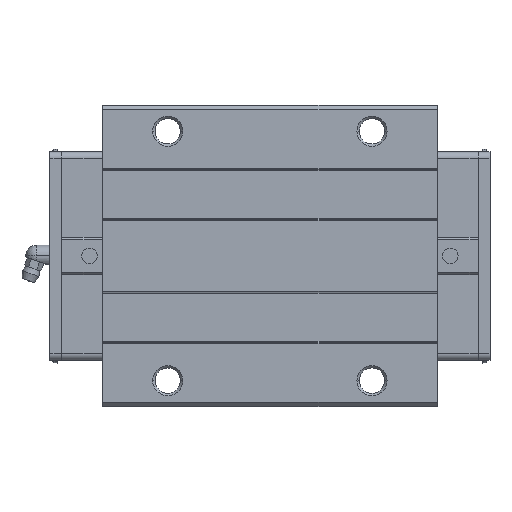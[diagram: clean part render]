
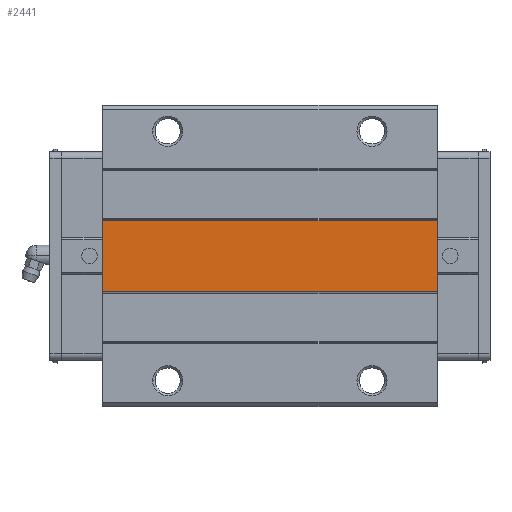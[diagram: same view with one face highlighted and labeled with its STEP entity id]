
A CAD part, top view. The second image highlights one B-rep face of the part: STEP entity #2441.
In plain terms, the highlighted planar face has unit normal (0, 0, 1).
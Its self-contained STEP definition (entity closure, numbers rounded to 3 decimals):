
#2380=CARTESIAN_POINT('POINT157',(180.3,-16.5,
   57.));
#2381=VERTEX_POINT('VERTEX157',#2380);
#2388=CARTESIAN_POINT('POINT158',(24.5,-16.5,
   57.));
#2389=VERTEX_POINT('VERTEX158',#2388);
#2390=CARTESIAN_POINT('POS238',(24.5,-16.5,
   57.));
#2391=DIRECTION('DIR340',(1.,0.,0.));
#2392=VECTOR('VEC136',#2391,1.);
#2393=LINE('STRAIGHT136',#2390,#2392);
#2394=EDGE_CURVE('EDGE231',#2389,#2381,#2393,.T.);
#2411=CARTESIAN_POINT('POINT159',(180.3,16.5,57.));
#2412=VERTEX_POINT('VERTEX159',#2411);
#2413=CARTESIAN_POINT('POS241',(180.3,0.,57.));
#2414=DIRECTION('DIR344',(0.,1.,0.));
#2415=VECTOR('VEC138',#2414,1.);
#2416=LINE('STRAIGHT138',#2413,#2415);
#2417=EDGE_CURVE('EDGE233',#2381,#2412,#2416,.T.);
#2418=ORIENTED_EDGE('COEDGE396',*,*,#2417,.T.);
#2419=CARTESIAN_POINT('POINT160',(24.5,16.5,57.));
#2420=VERTEX_POINT('VERTEX160',#2419);
#2421=CARTESIAN_POINT('POS242',(24.5,16.5,57.));
#2422=DIRECTION('DIR345',(1.,0.,0.));
#2423=VECTOR('VEC139',#2422,1.);
#2424=LINE('STRAIGHT139',#2421,#2423);
#2425=EDGE_CURVE('EDGE234',#2420,#2412,#2424,.T.);
#2426=ORIENTED_EDGE('COEDGE397',*,*,#2425,.F.);
#2427=CARTESIAN_POINT('POS243',(24.5,0.,57.));
#2428=DIRECTION('DIR346',(0.,1.,0.));
#2429=VECTOR('VEC140',#2428,1.);
#2430=LINE('STRAIGHT140',#2427,#2429);
#2431=EDGE_CURVE('EDGE235',#2389,#2420,#2430,.T.);
#2432=ORIENTED_EDGE('COEDGE398',*,*,#2431,.F.);
#2433=ORIENTED_EDGE('COEDGE399',*,*,#2394,.T.);
#2434=EDGE_LOOP('NONE',(#2418,#2426,#2432,#2433));
#2435=FACE_BOUND('LOOP1',#2434,.T.);
#2436=CARTESIAN_POINT('POS244',(24.5,0.,57.));
#2437=DIRECTION('DIR347',(0.,0.,1.));
#2438=DIRECTION('DIR348',(1.,0.,0.));
#2439=AXIS2_PLACEMENT_3D('AXIS104',#2436,#2437,#2438);
#2440=PLANE('PLANE28',#2439);
#2441=ADVANCED_FACE('FACE77',(#2435),#2440,.T.);
